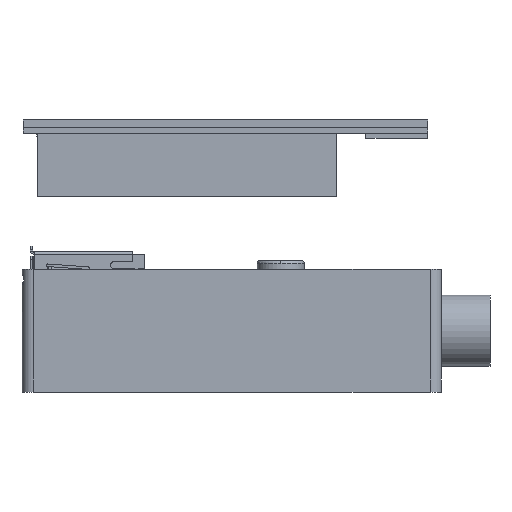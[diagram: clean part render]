
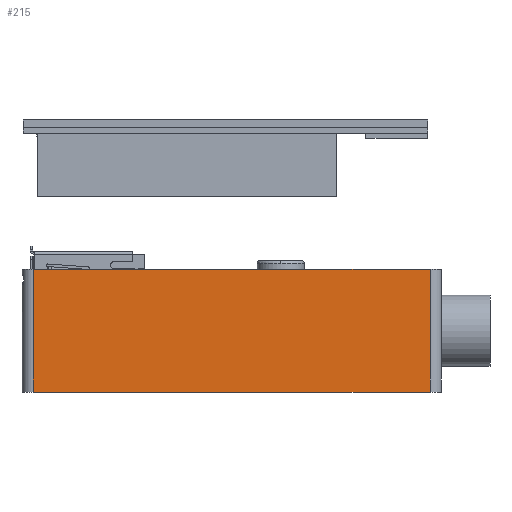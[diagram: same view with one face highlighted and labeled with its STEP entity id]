
A CAD part, left-side view. The second image highlights one B-rep face of the part: STEP entity #215.
In plain terms, the highlighted planar face has unit normal (-1, 0, 0).
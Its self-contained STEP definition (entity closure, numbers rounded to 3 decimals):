
#215 = ADVANCED_FACE('',(#216),#230,.F.);
#216 = FACE_BOUND('',#217,.F.);
#217 = EDGE_LOOP('',(#218,#253,#281,#309));
#218 = ORIENTED_EDGE('',*,*,#219,.F.);
#219 = EDGE_CURVE('',#220,#222,#224,.T.);
#220 = VERTEX_POINT('',#221);
#221 = CARTESIAN_POINT('',(-2.1,-52.5,12.2));
#222 = VERTEX_POINT('',#223);
#223 = CARTESIAN_POINT('',(-2.1,0.6,12.2));
#224 = SURFACE_CURVE('',#225,(#229,#241),.PCURVE_S1.);
#225 = LINE('',#226,#227);
#226 = CARTESIAN_POINT('',(-2.1,-54.,12.2));
#227 = VECTOR('',#228,1.);
#228 = DIRECTION('',(0.,1.,0.));
#229 = PCURVE('',#230,#235);
#230 = PLANE('',#231);
#231 = AXIS2_PLACEMENT_3D('',#232,#233,#234);
#232 = CARTESIAN_POINT('',(-2.1,-54.,-4.2));
#233 = DIRECTION('',(1.,0.,0.));
#234 = DIRECTION('',(0.,0.,1.));
#235 = DEFINITIONAL_REPRESENTATION('',(#236),#240);
#236 = LINE('',#237,#238);
#237 = CARTESIAN_POINT('',(16.4,0.));
#238 = VECTOR('',#239,1.);
#239 = DIRECTION('',(0.,-1.));
#240 = ( GEOMETRIC_REPRESENTATION_CONTEXT(2) 
PARAMETRIC_REPRESENTATION_CONTEXT() REPRESENTATION_CONTEXT('2D SPACE',''
  ) );
#241 = PCURVE('',#242,#247);
#242 = PLANE('',#243);
#243 = AXIS2_PLACEMENT_3D('',#244,#245,#246);
#244 = CARTESIAN_POINT('',(-2.1,-54.,12.2));
#245 = DIRECTION('',(0.,0.,1.));
#246 = DIRECTION('',(1.,0.,0.));
#247 = DEFINITIONAL_REPRESENTATION('',(#248),#252);
#248 = LINE('',#249,#250);
#249 = CARTESIAN_POINT('',(0.,0.));
#250 = VECTOR('',#251,1.);
#251 = DIRECTION('',(0.,1.));
#252 = ( GEOMETRIC_REPRESENTATION_CONTEXT(2) 
PARAMETRIC_REPRESENTATION_CONTEXT() REPRESENTATION_CONTEXT('2D SPACE',''
  ) );
#253 = ORIENTED_EDGE('',*,*,#254,.F.);
#254 = EDGE_CURVE('',#255,#220,#257,.T.);
#255 = VERTEX_POINT('',#256);
#256 = CARTESIAN_POINT('',(-2.1,-52.5,-4.2));
#257 = SURFACE_CURVE('',#258,(#262,#269),.PCURVE_S1.);
#258 = LINE('',#259,#260);
#259 = CARTESIAN_POINT('',(-2.1,-52.5,-4.2));
#260 = VECTOR('',#261,1.);
#261 = DIRECTION('',(0.,0.,1.));
#262 = PCURVE('',#230,#263);
#263 = DEFINITIONAL_REPRESENTATION('',(#264),#268);
#264 = LINE('',#265,#266);
#265 = CARTESIAN_POINT('',(0.,-1.5));
#266 = VECTOR('',#267,1.);
#267 = DIRECTION('',(1.,0.));
#268 = ( GEOMETRIC_REPRESENTATION_CONTEXT(2) 
PARAMETRIC_REPRESENTATION_CONTEXT() REPRESENTATION_CONTEXT('2D SPACE',''
  ) );
#269 = PCURVE('',#270,#275);
#270 = CYLINDRICAL_SURFACE('',#271,1.5);
#271 = AXIS2_PLACEMENT_3D('',#272,#273,#274);
#272 = CARTESIAN_POINT('',(-0.6,-52.5,-4.2));
#273 = DIRECTION('',(0.,0.,1.));
#274 = DIRECTION('',(-1.,-0.,0.));
#275 = DEFINITIONAL_REPRESENTATION('',(#276),#280);
#276 = LINE('',#277,#278);
#277 = CARTESIAN_POINT('',(0.,0.));
#278 = VECTOR('',#279,1.);
#279 = DIRECTION('',(0.,1.));
#280 = ( GEOMETRIC_REPRESENTATION_CONTEXT(2) 
PARAMETRIC_REPRESENTATION_CONTEXT() REPRESENTATION_CONTEXT('2D SPACE',''
  ) );
#281 = ORIENTED_EDGE('',*,*,#282,.T.);
#282 = EDGE_CURVE('',#255,#283,#285,.T.);
#283 = VERTEX_POINT('',#284);
#284 = CARTESIAN_POINT('',(-2.1,0.6,-4.2));
#285 = SURFACE_CURVE('',#286,(#290,#297),.PCURVE_S1.);
#286 = LINE('',#287,#288);
#287 = CARTESIAN_POINT('',(-2.1,-54.,-4.2));
#288 = VECTOR('',#289,1.);
#289 = DIRECTION('',(0.,1.,0.));
#290 = PCURVE('',#230,#291);
#291 = DEFINITIONAL_REPRESENTATION('',(#292),#296);
#292 = LINE('',#293,#294);
#293 = CARTESIAN_POINT('',(0.,0.));
#294 = VECTOR('',#295,1.);
#295 = DIRECTION('',(0.,-1.));
#296 = ( GEOMETRIC_REPRESENTATION_CONTEXT(2) 
PARAMETRIC_REPRESENTATION_CONTEXT() REPRESENTATION_CONTEXT('2D SPACE',''
  ) );
#297 = PCURVE('',#298,#303);
#298 = PLANE('',#299);
#299 = AXIS2_PLACEMENT_3D('',#300,#301,#302);
#300 = CARTESIAN_POINT('',(-2.1,-54.,-4.2));
#301 = DIRECTION('',(0.,0.,1.));
#302 = DIRECTION('',(1.,0.,0.));
#303 = DEFINITIONAL_REPRESENTATION('',(#304),#308);
#304 = LINE('',#305,#306);
#305 = CARTESIAN_POINT('',(0.,0.));
#306 = VECTOR('',#307,1.);
#307 = DIRECTION('',(0.,1.));
#308 = ( GEOMETRIC_REPRESENTATION_CONTEXT(2) 
PARAMETRIC_REPRESENTATION_CONTEXT() REPRESENTATION_CONTEXT('2D SPACE',''
  ) );
#309 = ORIENTED_EDGE('',*,*,#310,.T.);
#310 = EDGE_CURVE('',#283,#222,#311,.T.);
#311 = SURFACE_CURVE('',#312,(#316,#323),.PCURVE_S1.);
#312 = LINE('',#313,#314);
#313 = CARTESIAN_POINT('',(-2.1,0.6,-4.2));
#314 = VECTOR('',#315,1.);
#315 = DIRECTION('',(0.,0.,1.));
#316 = PCURVE('',#230,#317);
#317 = DEFINITIONAL_REPRESENTATION('',(#318),#322);
#318 = LINE('',#319,#320);
#319 = CARTESIAN_POINT('',(0.,-54.6));
#320 = VECTOR('',#321,1.);
#321 = DIRECTION('',(1.,0.));
#322 = ( GEOMETRIC_REPRESENTATION_CONTEXT(2) 
PARAMETRIC_REPRESENTATION_CONTEXT() REPRESENTATION_CONTEXT('2D SPACE',''
  ) );
#323 = PCURVE('',#324,#329);
#324 = CYLINDRICAL_SURFACE('',#325,1.5);
#325 = AXIS2_PLACEMENT_3D('',#326,#327,#328);
#326 = CARTESIAN_POINT('',(-0.6,0.6,-4.2));
#327 = DIRECTION('',(0.,0.,1.));
#328 = DIRECTION('',(-1.,-0.,0.));
#329 = DEFINITIONAL_REPRESENTATION('',(#330),#334);
#330 = LINE('',#331,#332);
#331 = CARTESIAN_POINT('',(-0.,0.));
#332 = VECTOR('',#333,1.);
#333 = DIRECTION('',(-0.,1.));
#334 = ( GEOMETRIC_REPRESENTATION_CONTEXT(2) 
PARAMETRIC_REPRESENTATION_CONTEXT() REPRESENTATION_CONTEXT('2D SPACE',''
  ) );
